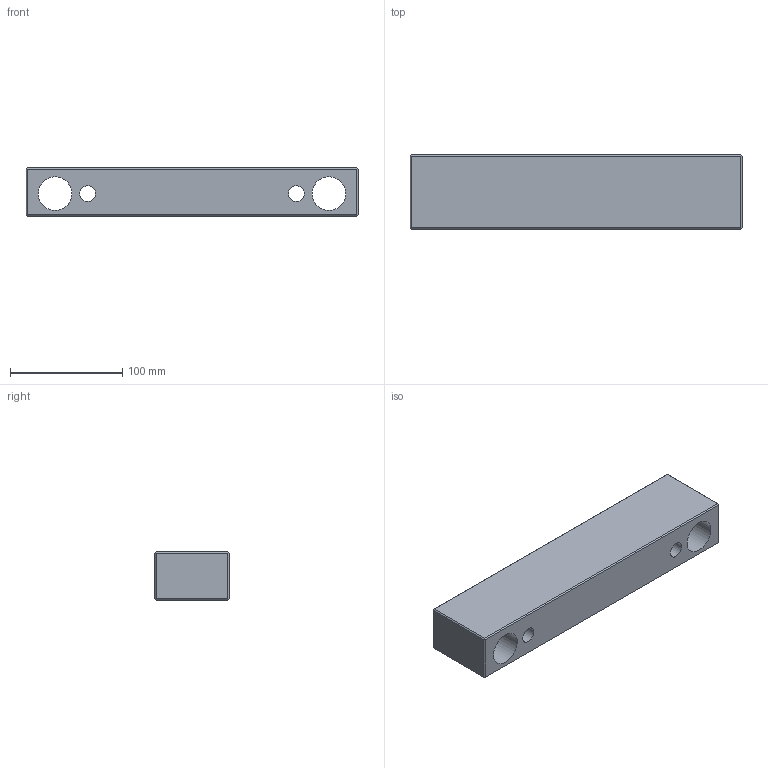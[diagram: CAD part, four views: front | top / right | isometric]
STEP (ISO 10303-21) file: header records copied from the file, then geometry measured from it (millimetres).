
FILE_DESCRIPTION(/* description */ ('STEP AP214'),/* implementation_level */ '2;1');
FILE_NAME(/* name */ 'KM0401962960661730',/* time_stamp */ '2026-06-23T08:59:35+02:00',/* author */ ('License CC BY-ND 4.0'),/* organization */ ('CADENAS'),/* preprocessor_version */ 'ST-DEVELOPER v20',/* originating_system */ 'PARTsolutions',/* authorisation */ ' ');
FILE_SCHEMA (('AUTOMOTIVE_DESIGN {1 0 10303 214 3 1 1}'));
Length unit declared in the file: millimetre
Products named in the file (1): KM0401962960661730
Bounding box: 296 x 66 x 43 mm (x, y, z)
Volume: 725618.9 mm3; surface area: 84056.8 mm2
Topology: 1 solids, 1 shells, 22 faces, 60 edges, 40 vertices
Faces by surface type: plane 18, cylinder 4
Full cylindrical faces by diameter (mm): 14 x2, 30 x2
Entity records: 718 total; most frequent: CARTESIAN_POINT 119, ORIENTED_EDGE 112, DIRECTION 110, EDGE_CURVE 56, LINE 48, VECTOR 48, VERTEX_POINT 40, EDGE_LOOP 34
